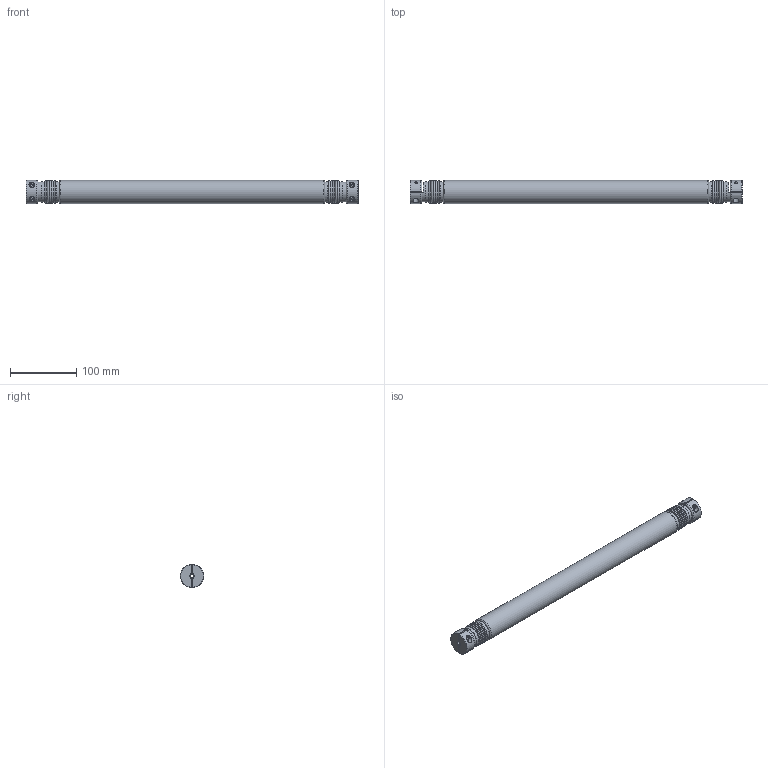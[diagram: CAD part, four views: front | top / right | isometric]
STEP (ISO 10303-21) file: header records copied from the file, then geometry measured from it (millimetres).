
FILE_DESCRIPTION(/* description */ ('Unknown'),/* implementation_level */ '2;1');
FILE_NAME(/* name */ 'WD 15 - L=0,5m',/* time_stamp */ '2020-06-04T13:10:47+02:00',/* author */ ('Unknown'),/* organization */ ('Unknown'),/* preprocessor_version */ 'ST-DEVELOPER v16.7',/* originating_system */ 'DEX',/* authorisation */ $);
FILE_SCHEMA (('AUTOMOTIVE_DESIGN {1 0 10303 214 3 1 1}'));
Length unit declared in the file: millimetre
Products named in the file (1): WD 15 - L=0,5m2
Bounding box: 500 x 35 x 35 mm (x, y, z)
Volume: 180408.4 mm3; surface area: 127184.7 mm2
Topology: 1 solids, 3 shells, 286 faces, 580 edges, 380 vertices
Faces by surface type: plane 150, torus 68, cylinder 52, cone 16
Full cylindrical faces by diameter (mm): 4.2 x4, 5 x4, 5.4 x4, 8.5 x4, 9 x4, 10 x2, 13 x2, 14 x2, 15 x4, 20 x2, 30 x3, 30.2 x4, 31 x4, 35 x1
Entity records: 6774 total; most frequent: CARTESIAN_POINT 1251, DIRECTION 1218, ORIENTED_EDGE 840, AXIS2_PLACEMENT_3D 535, FACE_BOUND 496, EDGE_LOOP 492, EDGE_CURVE 420, VERTEX_POINT 340
